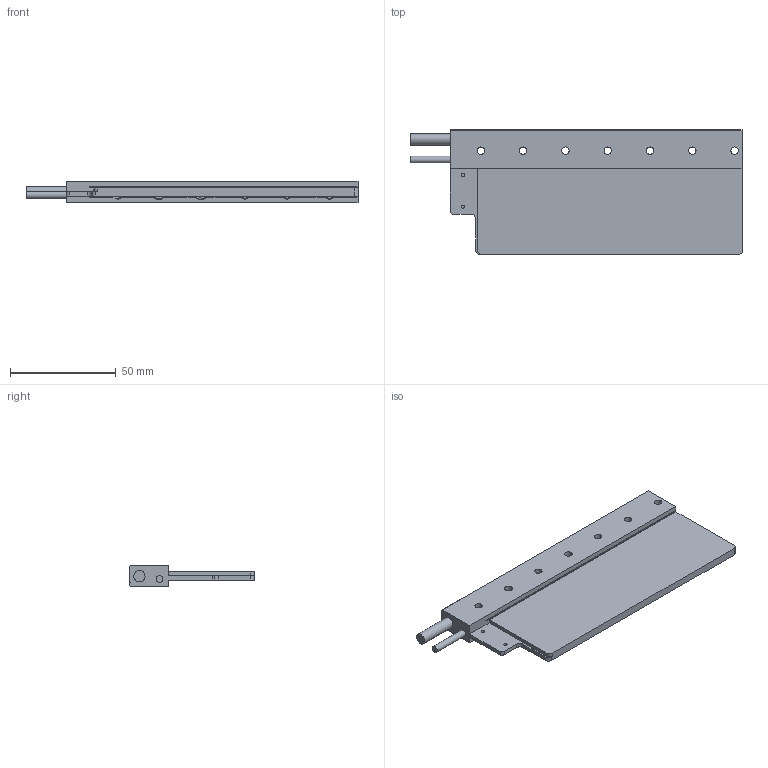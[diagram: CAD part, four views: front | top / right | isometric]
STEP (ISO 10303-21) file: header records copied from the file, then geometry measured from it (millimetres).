
FILE_DESCRIPTION( ( '-' ), '1' );
FILE_NAME( 'C:/Users/peikelboom/Desktop/STEP Files/Ironless/UM/Coilunit UM 6_160607.stp', '20-04-2016', ( 'P.Eikelboom' ), ( 'Technotion' ), 'PSStep 16.0.42', '-', ' ' );
FILE_SCHEMA( ( 'AUTOMOTIVE_DESIGN { 1 0 10303 214 1 1 1 1 }' ) );
Length unit declared in the file: millimetre
Products named in the file (1): 4022 363 35012-oa0
Bounding box: 157 x 59.1 x 10 mm (x, y, z)
Surface area: 21537.4 mm2 (no closed solid volume)
Topology: 0 solids, 114 shells, 114 faces, 611 edges, 596 vertices
Faces by surface type: plane 58, cylinder 54, cone 2
Full cylindrical faces by diameter (mm): 1.6 x2, 3.2 x2, 3.5 x7, 5.3 x1, 5.6 x1
Entity records: 7004 total; most frequent: CARTESIAN_POINT 1511, DIRECTION 990, ORIENTED_EDGE 590, EDGE_CURVE 590, VERTEX_POINT 590, LINE 372, VECTOR 372, AXIS2_PLACEMENT_3D 309
